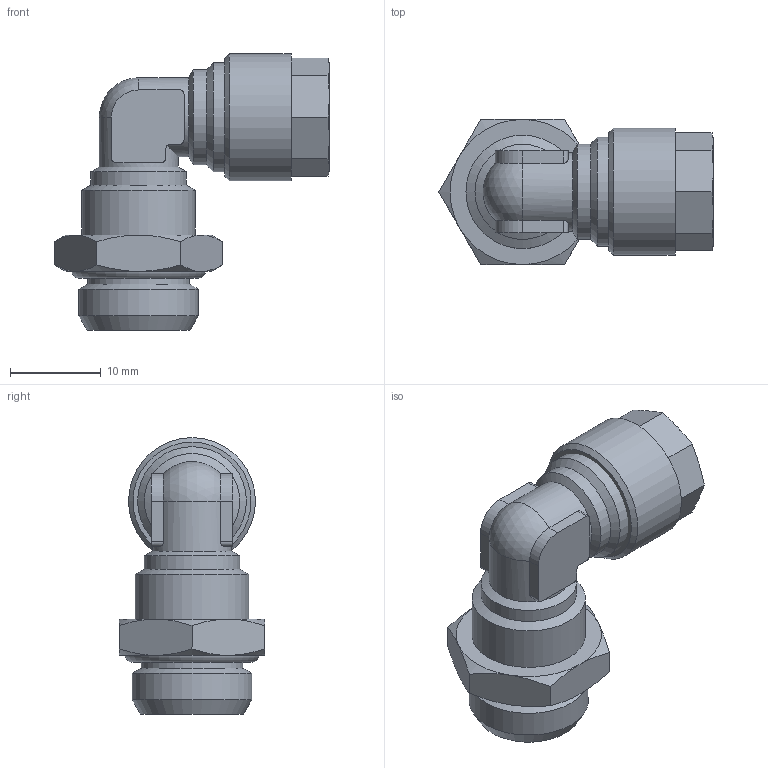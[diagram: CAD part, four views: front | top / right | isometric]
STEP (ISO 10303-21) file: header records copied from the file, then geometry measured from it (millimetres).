
FILE_DESCRIPTION(/* description */ (''),/* implementation_level */ '2;1');
FILE_NAME(/* name */ '11154_305DZ_86_G14_30.08.16',/* time_stamp */ '2016-08-30T07:45:42+02:00',/* author */ (''),/* organization */ (''),/* preprocessor_version */ 'ST-DEVELOPER v16.5',/* originating_system */ 'HiCAD 2016 2101.0 Build 254',/* authorisation */ '');
FILE_SCHEMA (('AUTOMOTIVE_DESIGN { 1 0 10303 214 1 1 1 1 }'));
Length unit declared in the file: millimetre
Products named in the file (5): Root; 17006; R11153-N2; OR 11.11X1.78; 214663-N2
Assembly tree (4 placements, depth 2):
  Root
    17006
    R11153-N2
    OR 11.11X1.78
    214663-N2
Bounding box: 30.24 x 16 x 30.5 mm (x, y, z)
Volume: 3836.3 mm3; surface area: 4677.3 mm2
Topology: 4 solids, 4 shells, 118 faces, 278 edges, 174 vertices
Faces by surface type: plane 42, cone 39, cylinder 32, torus 4, sphere 1
Full cylindrical faces by diameter (mm): 5 x1, 5.5 x1, 6 x1, 6.5 x1, 8 x1, 8.5 x1, 8.7 x2, 9 x2, 10.1 x2, 10.5 x2, 10.773 x1, 11.2 x1, 12 x1, 12.5 x1, 13.157 x1, 14 x1
Entity records: 7566 total; most frequent: CARTESIAN_POINT 2846, DIRECTION 584, PRESENTATION_STYLE_ASSIGNMENT 432, COLOUR_RGB 430, DRAUGHTING_PRE_DEFINED_CURVE_FONT 428, CURVE_STYLE 428, OVER_RIDING_STYLED_ITEM 428, ORIENTED_EDGE 428
